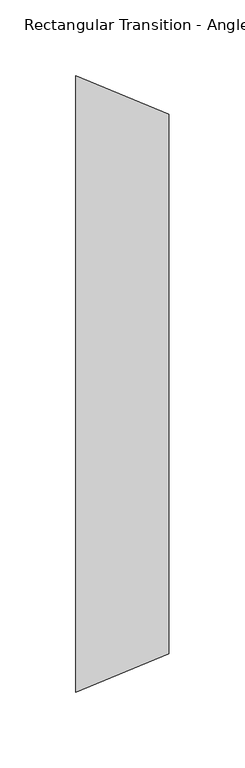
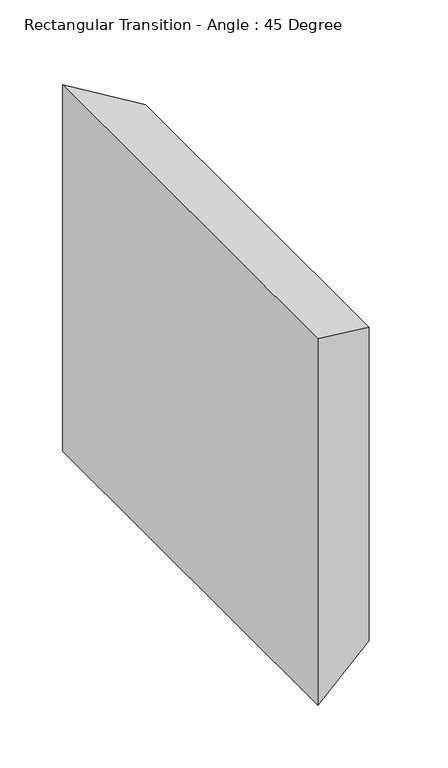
"""IFC4 building model written with IfcOpenShell, lengths in millimetres: duct fitting geometry, Rectangular Transition - Angle : 45 Degree."""

import ifcopenshell
import ifcopenshell.guid

model = None  # the IFC model being written
_history = None  # IfcOwnerHistory: only IFC2X3 demands one
_inside = {}  # id of a spatial element -> (the spatial element, [elements in it])
_under = {}  # id of a project, library or spatial element -> (it, [spatial elements below it])
_declared = {}  # id of a project -> (the project, [libraries it declares])
_typed = {}  # id of a type object -> (the type object, [elements of that type])
_made_of = {}  # id of a material, layer set ... -> (it, [elements and type objects made of it])


def new_model(schema):
    """Start an empty IFC model of exactly this schema.

    Asked for "IFC4X3", IfcOpenShell would pick the latest addendum, in which some entities
    have other attributes; the version numbers below select the first issue.
    IFC2X3 requires an IfcOwnerHistory on every rooted entity: one is made here for all.
    """
    global model, _history
    if schema == "IFC4X3":
        model = ifcopenshell.file(schema_version=(4, 3, 0, 0))
    else:
        model = ifcopenshell.file(schema=schema)
    _inside.clear()
    _under.clear()
    _declared.clear()
    _typed.clear()
    _made_of.clear()
    _history = None
    if model.schema == "IFC2X3":
        org = make("IfcOrganization", Name="unknown")
        user = make(
            "IfcPersonAndOrganization",
            ThePerson=make("IfcPerson", FamilyName="unknown"),
            TheOrganization=org,
        )
        app = make(
            "IfcApplication",
            ApplicationDeveloper=org,
            Version="unknown",
            ApplicationFullName="unknown",
            ApplicationIdentifier="unknown",
        )
        _history = make(
            "IfcOwnerHistory",
            OwningUser=user,
            OwningApplication=app,
            ChangeAction="ADDED",
            CreationDate=0,
        )
    return model


def make(cls, **values):
    """One entity of the class cls with the attributes given. An attribute that is None is left unset."""
    return model.create_entity(
        cls, **{name: value for name, value in values.items() if value is not None}
    )


def rooted(cls, **values):
    """An entity with a GlobalId (a new one), such as an element, a storey or a relation."""
    return make(cls, GlobalId=ifcopenshell.guid.new(), OwnerHistory=_history, **values)


def si_unit(unit_type, name, prefix=None):
    """IfcSIUnit, for example si_unit("LENGTHUNIT", "METRE", prefix="MILLI")."""
    return make("IfcSIUnit", UnitType=unit_type, Prefix=prefix, Name=name)


def assignment(units):
    """IfcUnitAssignment: the units of a project."""
    return None if units is None else make("IfcUnitAssignment", Units=units)


def point(xyz):
    """IfcCartesianPoint."""
    return None if xyz is None else make("IfcCartesianPoint", Coordinates=xyz)


def direction(xyz):
    """IfcDirection."""
    return None if xyz is None else make("IfcDirection", DirectionRatios=xyz)


def frame(location, z_axis=None, x_axis=None):
    """IfcAxis2Placement3D, a coordinate frame: its origin and axes. An axis left out is left unset."""
    return make(
        "IfcAxis2Placement3D",
        Location=point(location),
        Axis=direction(z_axis),
        RefDirection=direction(x_axis),
    )


def origin():
    """The frame at (0, 0, 0) with its axes left unset."""
    return frame((0.0, 0.0, 0.0))


def place(relative_to, where):
    """IfcLocalPlacement: puts the frame where relative to a parent placement (None: the world)."""
    return make(
        "IfcLocalPlacement", PlacementRelTo=relative_to, RelativePlacement=where
    )


def context(
    kind, dimensions, precision=None, world=None, true_north=None, identifier=None
):
    """IfcGeometricRepresentationContext, for example the 3D "Model" context."""
    return make(
        "IfcGeometricRepresentationContext",
        ContextIdentifier=identifier,
        ContextType=kind,
        CoordinateSpaceDimension=dimensions,
        Precision=precision,
        WorldCoordinateSystem=world,
        TrueNorth=true_north,
    )


def project(units=None, contexts=None):
    """IfcProject with its units and contexts."""
    return rooted(
        "IfcProject",
        Name="project",
        RepresentationContexts=contexts,
        UnitsInContext=assignment(units),
    )


def spatial(cls, under=None, at=None, **own):
    """A site, building, storey or space (cls), placed at a placement, below another one or the project."""
    s = rooted(cls, ObjectPlacement=at, **own)
    if under is not None:
        _under.setdefault(under.id(), (under, []))[1].append(s)
    return s


def faces_of(points, faces, orient=None, outer=None):
    """IfcFace entities. A face is a list of loops; a loop is a list of indices into points, from 0.

    orient and outer hold one flag for each loop. By default every Orientation is true, the
    first loop of a face is its IfcFaceOuterBound and the others are IfcFaceBound.
    """
    made = []
    for i, loops in enumerate(faces):
        bounds = []
        for j, loop in enumerate(loops):
            is_outer = j == 0 if outer is None else outer[i][j]
            bounds.append(
                make(
                    "IfcFaceOuterBound" if is_outer else "IfcFaceBound",
                    Bound=make("IfcPolyLoop", Polygon=[points[k] for k in loop]),
                    Orientation=True if orient is None else orient[i][j],
                )
            )
        made.append(make("IfcFace", Bounds=bounds))
    return made


def faceted_brep(points, faces, orient=None, outer=None, voids=None):
    """IfcFacetedBrep: a solid bounded by flat faces; with voids (closed shells), ...WithVoids."""
    shared = [point(p) for p in points]
    hull = make("IfcClosedShell", CfsFaces=faces_of(shared, faces, orient, outer))
    if voids is None:
        return make("IfcFacetedBrep", Outer=hull)
    return make(
        "IfcFacetedBrepWithVoids",
        Outer=hull,
        Voids=[
            make(cls, CfsFaces=faces_of(shared, fs, o, b)) for cls, fs, o, b in voids
        ],
    )


def shape(context_of_items, identifier, shape_type, items):
    """IfcShapeRepresentation: the items that make up one representation, for example the "Body"."""
    return make(
        "IfcShapeRepresentation",
        ContextOfItems=context_of_items,
        RepresentationIdentifier=identifier,
        RepresentationType=shape_type,
        Items=items,
    )


def source(mapping_origin, context_of_items, identifier, shape_type, items):
    """IfcRepresentationMap: a shape defined once, which mapped items show again and again."""
    return make(
        "IfcRepresentationMap",
        MappingOrigin=mapping_origin,
        MappedRepresentation=shape(context_of_items, identifier, shape_type, items),
    )


def transform(
    local_origin,
    x_axis=None,
    y_axis=None,
    z_axis=None,
    scale=None,
    scale2=None,
    scale3=None,
    uniform=True,
):
    """IfcCartesianTransformationOperator3D, or its non-uniform kind. x_axis, y_axis, z_axis: its Axis1, 2, 3."""
    if uniform:
        return make(
            "IfcCartesianTransformationOperator3D",
            Axis1=direction(x_axis),
            Axis2=direction(y_axis),
            LocalOrigin=point(local_origin),
            Scale=scale,
            Axis3=direction(z_axis),
        )
    return make(
        "IfcCartesianTransformationOperator3DnonUniform",
        Axis1=direction(x_axis),
        Axis2=direction(y_axis),
        LocalOrigin=point(local_origin),
        Scale=scale,
        Axis3=direction(z_axis),
        Scale2=scale2,
        Scale3=scale3,
    )


def mapped(mapping_source, mapping_target):
    """IfcMappedItem: shows the shape of a source again, moved by a transform."""
    return make(
        "IfcMappedItem", MappingSource=mapping_source, MappingTarget=mapping_target
    )


def made_of(thing, what):
    """Note that an element or type object is made of a material, layer set ...; save() writes the relation."""
    if what is not None:
        _made_of.setdefault(what.id(), (what, []))[1].append(thing)
    return thing


def element(
    cls,
    number,
    at=None,
    inside=None,
    cuts=None,
    type_object=None,
    material=None,
    context=None,
    identifier="Body",
    shape_type=None,
    held_by="IfcProductDefinitionShape",
    body=None,
    shapes=None,
    **own,
):
    """One element of the class cls, such as IfcWall. Its Tag is "e" and its number.

    at: its placement. inside: the storey or other place that contains it. cuts: it is an
    opening in that element (IfcRelVoidsElement). A single representation is given by context,
    identifier, shape_type and body (its items); several are given by shapes. held_by: the class
    of the entity that holds the representations. save() writes the other relations.
    """
    e = rooted(cls, Tag="e%d" % number, ObjectPlacement=at, **own)
    if body is not None:
        shapes = [shape(context, identifier, shape_type, body)]
    if shapes is not None:
        e.Representation = make(held_by, Representations=shapes)
    if inside is not None:
        _inside.setdefault(inside.id(), (inside, []))[1].append(e)
    if cuts is not None:
        rooted(
            "IfcRelVoidsElement", RelatingBuildingElement=cuts, RelatedOpeningElement=e
        )
    if type_object is not None:
        _typed.setdefault(type_object.id(), (type_object, []))[1].append(e)
    return made_of(e, material)


def aggregate(whole, parts):
    """IfcRelAggregates: a whole, such as a stair, and the parts it consists of."""
    return rooted("IfcRelAggregates", RelatingObject=whole, RelatedObjects=parts)


def save(model, path):
    """Write the relations noted so far, then the file.

    IfcRelAggregates (storeys below a building ...), IfcRelContainedInSpatialStructure (elements
    in a storey), IfcRelDefinesByType, IfcRelAssociatesMaterial and IfcRelDeclares: one each for
    every whole, place, type object, material and project.
    """
    for whole, parts in _under.values():
        aggregate(whole, parts)
    for where, things in _inside.values():
        rooted(
            "IfcRelContainedInSpatialStructure",
            RelatedElements=things,
            RelatingStructure=where,
        )
    for kind, things in _typed.values():
        rooted("IfcRelDefinesByType", RelatedObjects=things, RelatingType=kind)
    for what, things in _made_of.values():
        rooted("IfcRelAssociatesMaterial", RelatedObjects=things, RelatingMaterial=what)
    for by, libraries in _declared.values():
        rooted("IfcRelDeclares", RelatingContext=by, RelatedDefinitions=libraries)
    model.write(path)


def rectangular_transition_angle_45_degree_6fcfed4c(model_context):
    return source(origin(), model_context, "Body", "Brep", [
        faceted_brep([(61.3210245, -177.8, 152.4), (61.3210245, -177.8, -152.4), (61.3210245, 177.8, -152.4), (61.3210245, 177.8, 152.4), (0.0, -203.2, 177.8), (0.0, 203.2, 177.8), (0.0, 203.2, -177.8), (0.0, -203.2, -177.8)], [[[0, 1, 2, 3]], [[4, 5, 6, 7]], [[4, 7, 1, 0]], [[7, 6, 2, 1]], [[6, 5, 3, 2]], [[5, 4, 0, 3]]]),
    ])


if __name__ == "__main__":
    model = new_model("IFC4")
    model_context = context("Model", 3, world=origin())
    ifc_project = project(units=[si_unit("LENGTHUNIT", "METRE", prefix="MILLI")], contexts=[model_context])
    site = spatial("IfcSite", under=ifc_project)
    building = spatial("IfcBuilding", under=site)
    placement = place(None, origin())
    rectangular_transition_angle_45_degree_shape = rectangular_transition_angle_45_degree_6fcfed4c(model_context)
    element("IfcDuctFitting", 1, ObjectType="Rectangular Transition - Angle : 45 Degree", at=placement, inside=building, context=model_context, shape_type="MappedRepresentation", body=[
        mapped(rectangular_transition_angle_45_degree_shape, transform((0.0, 0.0, 0.0), x_axis=(1.0, 0.0, 0.0), y_axis=(0.0, 1.0, 0.0), z_axis=(0.0, 0.0, 1.0))),
    ])
    save(model, "model.ifc")
